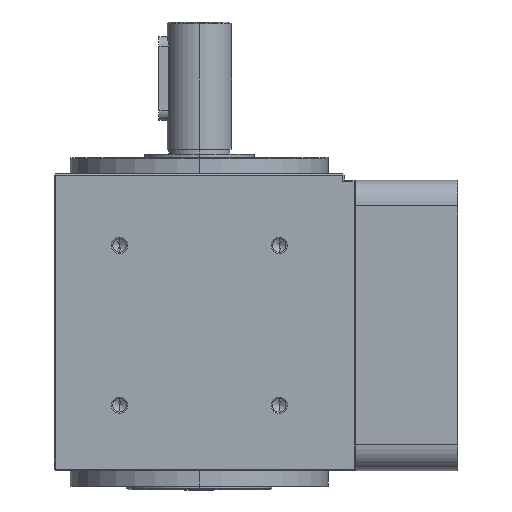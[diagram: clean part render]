
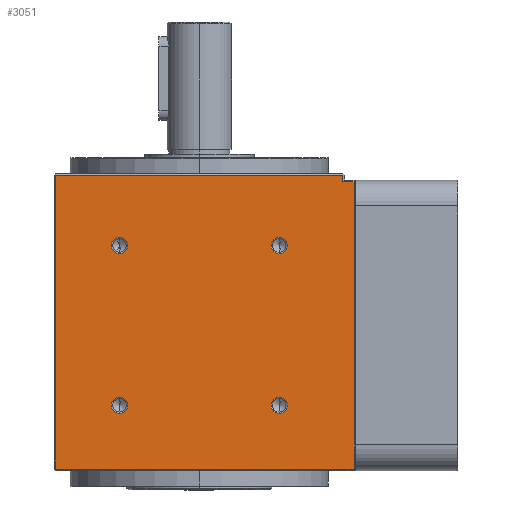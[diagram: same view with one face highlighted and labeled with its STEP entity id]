
A CAD part, left-side view. The second image highlights one B-rep face of the part: STEP entity #3051.
In plain terms, the highlighted planar face has unit normal (-1, 0, 0) as drawn and (1, 0, 0) by its records, which use the part's own axes.
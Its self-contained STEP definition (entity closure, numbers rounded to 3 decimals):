
#316 = FACE_BOUND ( 'NONE', #30367, .T. ) ;
#608 = CARTESIAN_POINT ( 'NONE',  ( 45., -44.5, 5.5 ) ) ;
#1223 = DIRECTION ( 'NONE',  ( 0., 0., -1. ) ) ;
#1513 = ORIENTED_EDGE ( 'NONE', *, *, #34456, .F. ) ;
#1590 = CIRCLE ( 'NONE', #26902, 2.5 ) ;
#1739 = VERTEX_POINT ( 'NONE', #12262 ) ;
#1886 = CIRCLE ( 'NONE', #13838, 2.5 ) ;
#1947 = CARTESIAN_POINT ( 'NONE',  ( 45., -47.93, 102. ) ) ;
#2526 = VECTOR ( 'NONE', #25330, 1000. ) ;
#2989 = CARTESIAN_POINT ( 'NONE',  ( 45., 24.749, 29.751 ) ) ;
#3051 = ADVANCED_FACE ( 'NONE', ( #22822, #31192, #7822, #10925, #316 ), #26139, .F. ) ;
#3327 = CIRCLE ( 'NONE', #34060, 2.5 ) ;
#3377 = ORIENTED_EDGE ( 'NONE', *, *, #10315, .T. ) ;
#4029 = DIRECTION ( 'NONE',  ( 0., 0., -1. ) ) ;
#4572 = VERTEX_POINT ( 'NONE', #33940 ) ;
#4644 = LINE ( 'NONE', #14460, #22753 ) ;
#4934 = AXIS2_PLACEMENT_3D ( 'NONE', #9750, #6791, #4029 ) ;
#5112 = CIRCLE ( 'NONE', #33845, 2.5 ) ;
#5346 = ORIENTED_EDGE ( 'NONE', *, *, #10690, .T. ) ;
#6656 = DIRECTION ( 'NONE',  ( 0., -1., 0. ) ) ;
#6791 = DIRECTION ( 'NONE',  ( 1., 0., 0. ) ) ;
#6940 = DIRECTION ( 'NONE',  ( 0., 0., -1. ) ) ;
#7180 = VECTOR ( 'NONE', #15792, 1000. ) ;
#7300 = CARTESIAN_POINT ( 'NONE',  ( 45., 24.749, 24.751 ) ) ;
#7418 = DIRECTION ( 'NONE',  ( 1., 0., 0. ) ) ;
#7822 = FACE_BOUND ( 'NONE', #27030, .T. ) ;
#8034 = ORIENTED_EDGE ( 'NONE', *, *, #27508, .F. ) ;
#8170 = CARTESIAN_POINT ( 'NONE',  ( 45., -24.749, 74.249 ) ) ;
#8651 = CARTESIAN_POINT ( 'NONE',  ( 45., 24.749, 76.749 ) ) ;
#8734 = EDGE_CURVE ( 'NONE', #22458, #24820, #17880, .T. ) ;
#9750 = CARTESIAN_POINT ( 'NONE',  ( 45., 24.749, 27.251 ) ) ;
#9809 = VECTOR ( 'NONE', #18884, 1000. ) ;
#10187 = DIRECTION ( 'NONE',  ( 0., 0., -1. ) ) ;
#10209 = ORIENTED_EDGE ( 'NONE', *, *, #15295, .F. ) ;
#10315 = EDGE_CURVE ( 'NONE', #11195, #25700, #25299, .T. ) ;
#10690 = EDGE_CURVE ( 'NONE', #1739, #22458, #35896, .T. ) ;
#10811 = CIRCLE ( 'NONE', #12576, 2.5 ) ;
#10817 = CARTESIAN_POINT ( 'NONE',  ( 45., -24.749, 24.751 ) ) ;
#10873 = EDGE_LOOP ( 'NONE', ( #17725, #13774, #11559, #3377, #32825, #5346 ) ) ;
#10925 = FACE_BOUND ( 'NONE', #21559, .T. ) ;
#11086 = AXIS2_PLACEMENT_3D ( 'NONE', #18044, #32430, #6940 ) ;
#11195 = VERTEX_POINT ( 'NONE', #26220 ) ;
#11559 = ORIENTED_EDGE ( 'NONE', *, *, #13990, .T. ) ;
#11707 = VECTOR ( 'NONE', #25995, 1000. ) ;
#11850 = CARTESIAN_POINT ( 'NONE',  ( 45., -24.749, 29.751 ) ) ;
#12262 = CARTESIAN_POINT ( 'NONE',  ( 45., -47.93, 96.5 ) ) ;
#12576 = AXIS2_PLACEMENT_3D ( 'NONE', #22708, #22964, #1223 ) ;
#12610 = EDGE_CURVE ( 'NONE', #24820, #29256, #16023, .T. ) ;
#13594 = VERTEX_POINT ( 'NONE', #10817 ) ;
#13774 = ORIENTED_EDGE ( 'NONE', *, *, #12610, .T. ) ;
#13838 = AXIS2_PLACEMENT_3D ( 'NONE', #8651, #31444, #31197 ) ;
#13990 = EDGE_CURVE ( 'NONE', #29256, #11195, #4644, .T. ) ;
#14460 = CARTESIAN_POINT ( 'NONE',  ( 45., 45., 5.5 ) ) ;
#15295 = EDGE_CURVE ( 'NONE', #32408, #24332, #1590, .T. ) ;
#15360 = VERTEX_POINT ( 'NONE', #11850 ) ;
#15500 = DIRECTION ( 'NONE',  ( 1., 0., 0. ) ) ;
#15792 = DIRECTION ( 'NONE',  ( 0., 0., -1. ) ) ;
#16023 = LINE ( 'NONE', #27113, #9809 ) ;
#16501 = CIRCLE ( 'NONE', #4934, 2.5 ) ;
#16683 = LINE ( 'NONE', #31117, #2526 ) ;
#17260 = DIRECTION ( 'NONE',  ( 0., 0., -1. ) ) ;
#17287 = DIRECTION ( 'NONE',  ( 0., 1., 0. ) ) ;
#17406 = DIRECTION ( 'NONE',  ( -1., 0., 0. ) ) ;
#17725 = ORIENTED_EDGE ( 'NONE', *, *, #8734, .T. ) ;
#17749 = DIRECTION ( 'NONE',  ( 1., 0., 0. ) ) ;
#17803 = ORIENTED_EDGE ( 'NONE', *, *, #28691, .F. ) ;
#17880 = LINE ( 'NONE', #26357, #11707 ) ;
#17887 = EDGE_CURVE ( 'NONE', #30449, #34130, #10811, .T. ) ;
#18044 = CARTESIAN_POINT ( 'NONE',  ( 45., -24.749, 76.749 ) ) ;
#18068 = AXIS2_PLACEMENT_3D ( 'NONE', #31441, #17406, #6656 ) ;
#18884 = DIRECTION ( 'NONE',  ( 0., 0., -1. ) ) ;
#19338 = CIRCLE ( 'NONE', #28127, 2.5 ) ;
#20028 = CARTESIAN_POINT ( 'NONE',  ( 45., -44.5, 7.5 ) ) ;
#21101 = DIRECTION ( 'NONE',  ( 0., 0., -1. ) ) ;
#21559 = EDGE_LOOP ( 'NONE', ( #17803, #1513 ) ) ;
#22228 = VECTOR ( 'NONE', #35134, 1000. ) ;
#22458 = VERTEX_POINT ( 'NONE', #32015 ) ;
#22459 = ORIENTED_EDGE ( 'NONE', *, *, #31739, .F. ) ;
#22708 = CARTESIAN_POINT ( 'NONE',  ( 45., -24.749, 76.749 ) ) ;
#22753 = VECTOR ( 'NONE', #17287, 1000. ) ;
#22822 = FACE_OUTER_BOUND ( 'NONE', #10873, .T. ) ;
#22964 = DIRECTION ( 'NONE',  ( 1., 0., 0. ) ) ;
#23896 = CARTESIAN_POINT ( 'NONE',  ( 45., -24.749, 79.249 ) ) ;
#24155 = EDGE_CURVE ( 'NONE', #34130, #30449, #26424, .T. ) ;
#24332 = VERTEX_POINT ( 'NONE', #7300 ) ;
#24820 = VERTEX_POINT ( 'NONE', #20028 ) ;
#25299 = LINE ( 'NONE', #31338, #22228 ) ;
#25330 = DIRECTION ( 'NONE',  ( 0., -1., 0. ) ) ;
#25663 = EDGE_CURVE ( 'NONE', #25700, #1739, #16683, .T. ) ;
#25700 = VERTEX_POINT ( 'NONE', #33957 ) ;
#25995 = DIRECTION ( 'NONE',  ( 0., 1., 0. ) ) ;
#26139 = PLANE ( 'NONE',  #18068 ) ;
#26220 = CARTESIAN_POINT ( 'NONE',  ( 45., 44.5, 5.5 ) ) ;
#26357 = CARTESIAN_POINT ( 'NONE',  ( 45., -45., 7.5 ) ) ;
#26424 = CIRCLE ( 'NONE', #11086, 2.5 ) ;
#26902 = AXIS2_PLACEMENT_3D ( 'NONE', #34616, #17749, #17260 ) ;
#27013 = EDGE_LOOP ( 'NONE', ( #27262, #22459 ) ) ;
#27030 = EDGE_LOOP ( 'NONE', ( #30146, #27093 ) ) ;
#27093 = ORIENTED_EDGE ( 'NONE', *, *, #17887, .F. ) ;
#27113 = CARTESIAN_POINT ( 'NONE',  ( 45., -44.5, 102. ) ) ;
#27262 = ORIENTED_EDGE ( 'NONE', *, *, #31933, .F. ) ;
#27329 = CARTESIAN_POINT ( 'NONE',  ( 45., -24.749, 27.251 ) ) ;
#27508 = EDGE_CURVE ( 'NONE', #24332, #32408, #16501, .T. ) ;
#28127 = AXIS2_PLACEMENT_3D ( 'NONE', #29835, #7418, #21101 ) ;
#28691 = EDGE_CURVE ( 'NONE', #31435, #4572, #19338, .T. ) ;
#29066 = CARTESIAN_POINT ( 'NONE',  ( 45., 24.749, 74.249 ) ) ;
#29256 = VERTEX_POINT ( 'NONE', #608 ) ;
#29835 = CARTESIAN_POINT ( 'NONE',  ( 45., 24.749, 76.749 ) ) ;
#30146 = ORIENTED_EDGE ( 'NONE', *, *, #24155, .F. ) ;
#30367 = EDGE_LOOP ( 'NONE', ( #8034, #10209 ) ) ;
#30449 = VERTEX_POINT ( 'NONE', #23896 ) ;
#31117 = CARTESIAN_POINT ( 'NONE',  ( 45., -48.43, 96.5 ) ) ;
#31192 = FACE_BOUND ( 'NONE', #27013, .T. ) ;
#31197 = DIRECTION ( 'NONE',  ( 0., 0., -1. ) ) ;
#31338 = CARTESIAN_POINT ( 'NONE',  ( 45., 44.5, 102. ) ) ;
#31435 = VERTEX_POINT ( 'NONE', #29066 ) ;
#31441 = CARTESIAN_POINT ( 'NONE',  ( 45., -45., 102. ) ) ;
#31444 = DIRECTION ( 'NONE',  ( 1., 0., 0. ) ) ;
#31739 = EDGE_CURVE ( 'NONE', #15360, #13594, #5112, .T. ) ;
#31933 = EDGE_CURVE ( 'NONE', #13594, #15360, #3327, .T. ) ;
#31998 = DIRECTION ( 'NONE',  ( 0., 0., -1. ) ) ;
#32015 = CARTESIAN_POINT ( 'NONE',  ( 45., -47.93, 7.5 ) ) ;
#32408 = VERTEX_POINT ( 'NONE', #2989 ) ;
#32430 = DIRECTION ( 'NONE',  ( 1., 0., 0. ) ) ;
#32825 = ORIENTED_EDGE ( 'NONE', *, *, #25663, .T. ) ;
#32851 = DIRECTION ( 'NONE',  ( 1., 0., 0. ) ) ;
#33845 = AXIS2_PLACEMENT_3D ( 'NONE', #35093, #15500, #31998 ) ;
#33940 = CARTESIAN_POINT ( 'NONE',  ( 45., 24.749, 79.249 ) ) ;
#33957 = CARTESIAN_POINT ( 'NONE',  ( 45., 44.5, 96.5 ) ) ;
#34060 = AXIS2_PLACEMENT_3D ( 'NONE', #27329, #32851, #10187 ) ;
#34130 = VERTEX_POINT ( 'NONE', #8170 ) ;
#34456 = EDGE_CURVE ( 'NONE', #4572, #31435, #1886, .T. ) ;
#34616 = CARTESIAN_POINT ( 'NONE',  ( 45., 24.749, 27.251 ) ) ;
#35093 = CARTESIAN_POINT ( 'NONE',  ( 45., -24.749, 27.251 ) ) ;
#35134 = DIRECTION ( 'NONE',  ( 0., 0., 1. ) ) ;
#35896 = LINE ( 'NONE', #1947, #7180 ) ;
